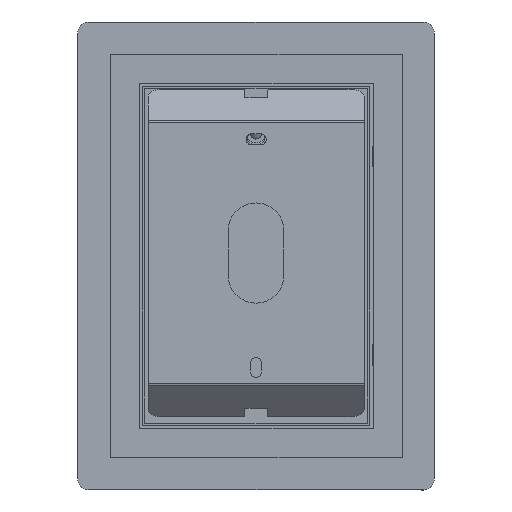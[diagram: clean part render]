
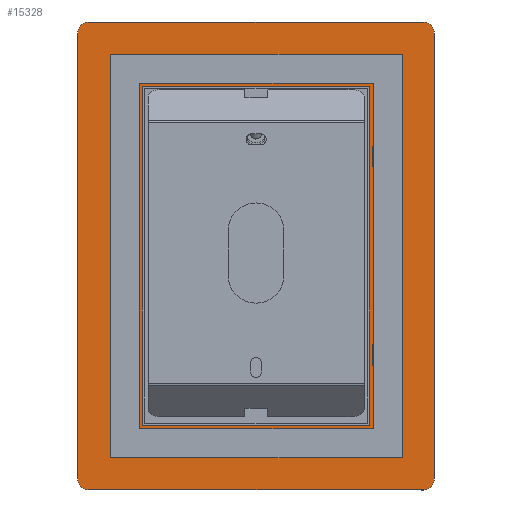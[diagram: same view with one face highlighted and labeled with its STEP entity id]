
A CAD part, top view. The second image highlights one B-rep face of the part: STEP entity #15328.
In plain terms, the highlighted planar face has unit normal (0, 0, 1).
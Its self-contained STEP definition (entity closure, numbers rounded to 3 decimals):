
#183 = LINE ( 'NONE', #22234, #43182 ) ;
#706 = EDGE_CURVE ( 'NONE', #3450, #15798, #29479, .T. ) ;
#2396 = CARTESIAN_POINT ( 'NONE',  ( -75., 110.7, 1.5 ) ) ;
#2459 = VERTEX_POINT ( 'NONE', #21137 ) ;
#2828 = CARTESIAN_POINT ( 'NONE',  ( -80., -94.3, 1.5 ) ) ;
#2858 = AXIS2_PLACEMENT_3D ( 'NONE', #42350, #6184, #6865 ) ;
#3262 = VECTOR ( 'NONE', #35586, 1000. ) ;
#3301 = CARTESIAN_POINT ( 'NONE',  ( 75., 110.7, 1.5 ) ) ;
#3450 = VERTEX_POINT ( 'NONE', #17956 ) ;
#4231 = VECTOR ( 'NONE', #31620, 1000. ) ;
#4255 = CARTESIAN_POINT ( 'NONE',  ( 75., -99.3, 1.5 ) ) ;
#4385 = PLANE ( 'NONE',  #39430 ) ;
#4485 = VERTEX_POINT ( 'NONE', #14476 ) ;
#4859 = CARTESIAN_POINT ( 'NONE',  ( 80., -94.3, 1.5 ) ) ;
#4942 = EDGE_CURVE ( 'NONE', #32956, #40986, #19348, .T. ) ;
#4969 = EDGE_CURVE ( 'NONE', #25559, #11274, #34341, .T. ) ;
#6184 = DIRECTION ( 'NONE',  ( 0., 0., 1. ) ) ;
#6865 = DIRECTION ( 'NONE',  ( 1., 0., 0. ) ) ;
#7199 = EDGE_LOOP ( 'NONE', ( #43410, #25710, #9452, #11558 ) ) ;
#7684 = DIRECTION ( 'NONE',  ( -1., 0., 0. ) ) ;
#8162 = EDGE_CURVE ( 'NONE', #2459, #3450, #40567, .T. ) ;
#9452 = ORIENTED_EDGE ( 'NONE', *, *, #13254, .F. ) ;
#10135 = VECTOR ( 'NONE', #45569, 1000. ) ;
#10439 = VERTEX_POINT ( 'NONE', #22770 ) ;
#11274 = VERTEX_POINT ( 'NONE', #4859 ) ;
#11558 = ORIENTED_EDGE ( 'NONE', *, *, #39714, .F. ) ;
#11638 = CARTESIAN_POINT ( 'NONE',  ( -51., 81.7, 1.5 ) ) ;
#13254 = EDGE_CURVE ( 'NONE', #10439, #2459, #31262, .T. ) ;
#13544 = CIRCLE ( 'NONE', #29262, 5. ) ;
#13904 = VECTOR ( 'NONE', #7684, 1000. ) ;
#14476 = CARTESIAN_POINT ( 'NONE',  ( 80., 105.7, 1.5 ) ) ;
#15179 = FACE_OUTER_BOUND ( 'NONE', #43226, .T. ) ;
#15328 = ADVANCED_FACE ( 'NONE', ( #22239, #15179 ), #4385, .T. ) ;
#15798 = VERTEX_POINT ( 'NONE', #23600 ) ;
#16214 = ORIENTED_EDGE ( 'NONE', *, *, #37840, .T. ) ;
#16690 = EDGE_CURVE ( 'NONE', #46182, #27297, #20580, .T. ) ;
#17293 = CARTESIAN_POINT ( 'NONE',  ( 75., 110.7, 1.5 ) ) ;
#17956 = CARTESIAN_POINT ( 'NONE',  ( -51., 81.7, 1.5 ) ) ;
#18278 = EDGE_CURVE ( 'NONE', #27297, #40350, #23807, .T. ) ;
#19348 = CIRCLE ( 'NONE', #32094, 5. ) ;
#20517 = CARTESIAN_POINT ( 'NONE',  ( -75., -94.3, 1.5 ) ) ;
#20580 = LINE ( 'NONE', #17293, #4231 ) ;
#20729 = CARTESIAN_POINT ( 'NONE',  ( 75., 105.7, 1.5 ) ) ;
#20960 = DIRECTION ( 'NONE',  ( 1., 0., 0. ) ) ;
#21137 = CARTESIAN_POINT ( 'NONE',  ( 51., 81.7, 1.5 ) ) ;
#21499 = CARTESIAN_POINT ( 'NONE',  ( 80., -94.3, 1.5 ) ) ;
#22205 = ORIENTED_EDGE ( 'NONE', *, *, #4969, .T. ) ;
#22234 = CARTESIAN_POINT ( 'NONE',  ( -80., 105.7, 1.5 ) ) ;
#22239 = FACE_BOUND ( 'NONE', #7199, .T. ) ;
#22449 = VECTOR ( 'NONE', #27985, 1000. ) ;
#22770 = CARTESIAN_POINT ( 'NONE',  ( 51., -70.3, 1.5 ) ) ;
#23600 = CARTESIAN_POINT ( 'NONE',  ( -51., -70.3, 1.5 ) ) ;
#23807 = CIRCLE ( 'NONE', #45511, 5. ) ;
#24469 = CARTESIAN_POINT ( 'NONE',  ( -51., -70.3, 1.5 ) ) ;
#25175 = ORIENTED_EDGE ( 'NONE', *, *, #30808, .T. ) ;
#25559 = VERTEX_POINT ( 'NONE', #4255 ) ;
#25710 = ORIENTED_EDGE ( 'NONE', *, *, #8162, .F. ) ;
#25975 = CARTESIAN_POINT ( 'NONE',  ( -75., 105.7, 1.5 ) ) ;
#26006 = ORIENTED_EDGE ( 'NONE', *, *, #18278, .T. ) ;
#26210 = DIRECTION ( 'NONE',  ( 0., 0., 1. ) ) ;
#27297 = VERTEX_POINT ( 'NONE', #2396 ) ;
#27469 = ORIENTED_EDGE ( 'NONE', *, *, #42785, .T. ) ;
#27985 = DIRECTION ( 'NONE',  ( 1., 0., 0. ) ) ;
#28185 = ORIENTED_EDGE ( 'NONE', *, *, #16690, .T. ) ;
#29262 = AXIS2_PLACEMENT_3D ( 'NONE', #20729, #34577, #20960 ) ;
#29479 = LINE ( 'NONE', #11638, #36429 ) ;
#29616 = CARTESIAN_POINT ( 'NONE',  ( -75., 105.7, 1.5 ) ) ;
#30051 = CARTESIAN_POINT ( 'NONE',  ( -80., 105.7, 1.5 ) ) ;
#30808 = EDGE_CURVE ( 'NONE', #11274, #4485, #42413, .T. ) ;
#31231 = CARTESIAN_POINT ( 'NONE',  ( -75., -99.3, 1.5 ) ) ;
#31262 = LINE ( 'NONE', #41825, #10135 ) ;
#31556 = DIRECTION ( 'NONE',  ( 1., 0., 0. ) ) ;
#31620 = DIRECTION ( 'NONE',  ( -1., 0., 0. ) ) ;
#32094 = AXIS2_PLACEMENT_3D ( 'NONE', #20517, #42124, #31556 ) ;
#32956 = VERTEX_POINT ( 'NONE', #2828 ) ;
#33008 = DIRECTION ( 'NONE',  ( 0., -1., 0. ) ) ;
#33119 = VECTOR ( 'NONE', #37220, 1000. ) ;
#34341 = CIRCLE ( 'NONE', #2858, 5. ) ;
#34577 = DIRECTION ( 'NONE',  ( 0., 0., 1. ) ) ;
#35586 = DIRECTION ( 'NONE',  ( 0., 1., 0. ) ) ;
#36429 = VECTOR ( 'NONE', #33008, 1000. ) ;
#36453 = EDGE_CURVE ( 'NONE', #40350, #32956, #183, .T. ) ;
#36575 = CARTESIAN_POINT ( 'NONE',  ( 51., 81.7, 1.5 ) ) ;
#36981 = CARTESIAN_POINT ( 'NONE',  ( -75., -99.3, 1.5 ) ) ;
#37220 = DIRECTION ( 'NONE',  ( 1., 0., 0. ) ) ;
#37840 = EDGE_CURVE ( 'NONE', #40986, #25559, #44481, .T. ) ;
#38797 = LINE ( 'NONE', #24469, #22449 ) ;
#39430 = AXIS2_PLACEMENT_3D ( 'NONE', #25975, #26210, #40320 ) ;
#39714 = EDGE_CURVE ( 'NONE', #15798, #10439, #38797, .T. ) ;
#40074 = DIRECTION ( 'NONE',  ( 0., -1., 0. ) ) ;
#40320 = DIRECTION ( 'NONE',  ( 1., 0., 0. ) ) ;
#40350 = VERTEX_POINT ( 'NONE', #30051 ) ;
#40432 = DIRECTION ( 'NONE',  ( 0., 0., 1. ) ) ;
#40567 = LINE ( 'NONE', #36575, #13904 ) ;
#40935 = ORIENTED_EDGE ( 'NONE', *, *, #4942, .T. ) ;
#40986 = VERTEX_POINT ( 'NONE', #31231 ) ;
#41825 = CARTESIAN_POINT ( 'NONE',  ( 51., -70.3, 1.5 ) ) ;
#42124 = DIRECTION ( 'NONE',  ( 0., 0., 1. ) ) ;
#42350 = CARTESIAN_POINT ( 'NONE',  ( 75., -94.3, 1.5 ) ) ;
#42413 = LINE ( 'NONE', #21499, #3262 ) ;
#42785 = EDGE_CURVE ( 'NONE', #4485, #46182, #13544, .T. ) ;
#43182 = VECTOR ( 'NONE', #40074, 1000. ) ;
#43226 = EDGE_LOOP ( 'NONE', ( #26006, #44320, #40935, #16214, #22205, #25175, #27469, #28185 ) ) ;
#43410 = ORIENTED_EDGE ( 'NONE', *, *, #706, .F. ) ;
#44320 = ORIENTED_EDGE ( 'NONE', *, *, #36453, .T. ) ;
#44405 = DIRECTION ( 'NONE',  ( 1., 0., 0. ) ) ;
#44481 = LINE ( 'NONE', #36981, #33119 ) ;
#45511 = AXIS2_PLACEMENT_3D ( 'NONE', #29616, #40432, #44405 ) ;
#45569 = DIRECTION ( 'NONE',  ( 0., 1., 0. ) ) ;
#46182 = VERTEX_POINT ( 'NONE', #3301 ) ;
